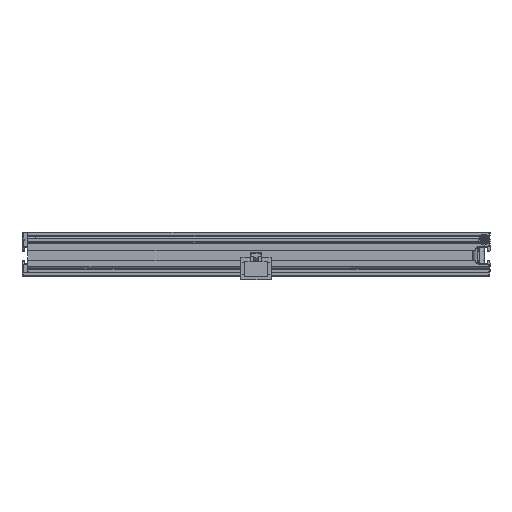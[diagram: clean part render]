
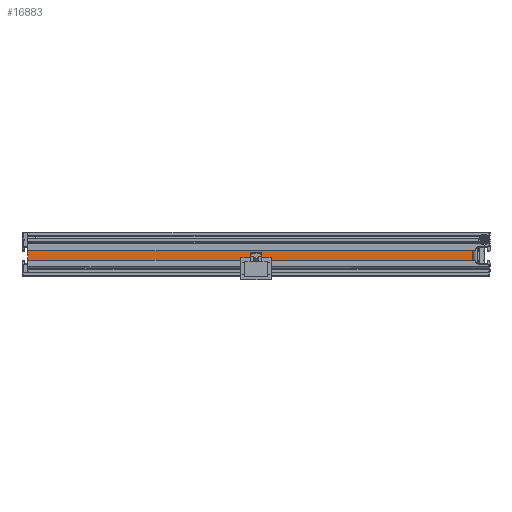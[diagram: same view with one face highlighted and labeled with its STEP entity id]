
A CAD part, top view. The second image highlights one B-rep face of the part: STEP entity #16883.
In plain terms, the highlighted planar face has unit normal (0, 0, 1).
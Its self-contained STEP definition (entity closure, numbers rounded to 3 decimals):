
#1636 = VERTEX_POINT ( 'NONE', #23258 ) ;
#2751 = DIRECTION ( 'NONE',  ( 0., 0., -1. ) ) ;
#6163 = CARTESIAN_POINT ( 'NONE',  ( -81.5, 8.65, 58.5 ) ) ;
#8157 = DIRECTION ( 'NONE',  ( -1., 0., 0. ) ) ;
#10836 = CARTESIAN_POINT ( 'NONE',  ( 75.5, 5.35, 58.5 ) ) ;
#12470 = VECTOR ( 'NONE', #36399, 1000. ) ;
#12475 = DIRECTION ( 'NONE',  ( 0., 1., 0. ) ) ;
#15341 = LINE ( 'NONE', #6163, #12470 ) ;
#16054 = VERTEX_POINT ( 'NONE', #41928 ) ;
#16883 = ADVANCED_FACE ( 'NONE', ( #72411 ), #38162, .F. ) ;
#17316 = CARTESIAN_POINT ( 'NONE',  ( -81.5, 5.35, 58.5 ) ) ;
#18337 = CARTESIAN_POINT ( 'NONE',  ( -79.5, 5.35, 58.5 ) ) ;
#20468 = CARTESIAN_POINT ( 'NONE',  ( -81.5, 5.35, 58.5 ) ) ;
#20513 = VECTOR ( 'NONE', #40074, 1000. ) ;
#22039 = ORIENTED_EDGE ( 'NONE', *, *, #32133, .F. ) ;
#22752 = DIRECTION ( 'NONE',  ( 1., 0., 0. ) ) ;
#23258 = CARTESIAN_POINT ( 'NONE',  ( 75.5, 5.35, 58.5 ) ) ;
#26108 = ORIENTED_EDGE ( 'NONE', *, *, #69174, .F. ) ;
#28173 = EDGE_CURVE ( 'NONE', #1636, #76119, #39126, .T. ) ;
#29965 = CARTESIAN_POINT ( 'NONE',  ( -79.5, 1., 58.5 ) ) ;
#31506 = LINE ( 'NONE', #17316, #47337 ) ;
#32133 = EDGE_CURVE ( 'NONE', #50101, #16054, #51928, .T. ) ;
#36399 = DIRECTION ( 'NONE',  ( 1., 0., 0. ) ) ;
#38162 = PLANE ( 'NONE',  #54573 ) ;
#39126 = LINE ( 'NONE', #10836, #20513 ) ;
#40074 = DIRECTION ( 'NONE',  ( 0., 1., 0. ) ) ;
#41928 = CARTESIAN_POINT ( 'NONE',  ( -79.5, 8.65, 58.5 ) ) ;
#47298 = VECTOR ( 'NONE', #12475, 1000. ) ;
#47337 = VECTOR ( 'NONE', #22752, 1000. ) ;
#49528 = ORIENTED_EDGE ( 'NONE', *, *, #65600, .T. ) ;
#50101 = VERTEX_POINT ( 'NONE', #18337 ) ;
#51928 = LINE ( 'NONE', #29965, #47298 ) ;
#52468 = CARTESIAN_POINT ( 'NONE',  ( 75.5, 8.65, 58.5 ) ) ;
#54573 = AXIS2_PLACEMENT_3D ( 'NONE', #20468, #2751, #8157 ) ;
#64490 = ORIENTED_EDGE ( 'NONE', *, *, #28173, .T. ) ;
#65600 = EDGE_CURVE ( 'NONE', #50101, #1636, #31506, .T. ) ;
#69174 = EDGE_CURVE ( 'NONE', #16054, #76119, #15341, .T. ) ;
#72411 = FACE_OUTER_BOUND ( 'NONE', #76231, .T. ) ;
#76119 = VERTEX_POINT ( 'NONE', #52468 ) ;
#76231 = EDGE_LOOP ( 'NONE', ( #49528, #64490, #26108, #22039 ) ) ;
